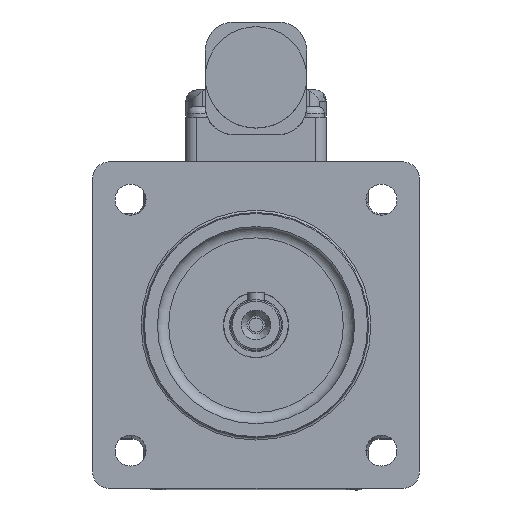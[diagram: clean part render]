
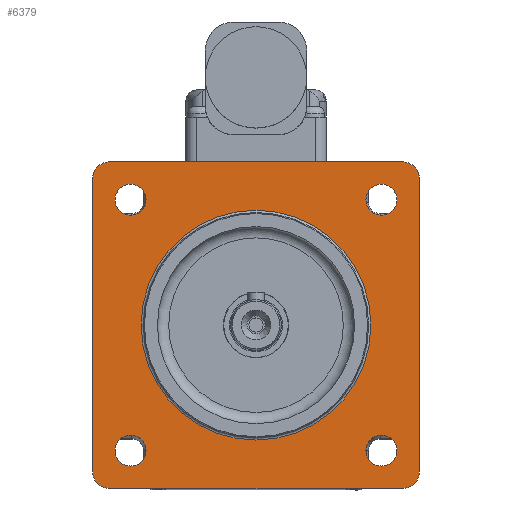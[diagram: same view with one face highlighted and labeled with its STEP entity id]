
A CAD part, top view. The second image highlights one B-rep face of the part: STEP entity #6379.
In plain terms, the highlighted planar face has unit normal (0, 0, 1).
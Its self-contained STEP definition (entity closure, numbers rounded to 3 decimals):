
#301=CIRCLE('',#6883,20.4);
#303=CIRCLE('',#6887,3.);
#304=CIRCLE('',#6888,3.);
#305=CIRCLE('',#6889,3.);
#306=CIRCLE('',#6890,3.);
#307=CIRCLE('',#6891,2.75);
#308=CIRCLE('',#6892,2.75);
#309=CIRCLE('',#6893,2.75);
#310=CIRCLE('',#6894,2.75);
#431=FACE_BOUND('',#1203,.T.);
#432=FACE_BOUND('',#1204,.T.);
#433=FACE_BOUND('',#1205,.T.);
#434=FACE_BOUND('',#1206,.T.);
#435=FACE_BOUND('',#1207,.T.);
#825=FACE_OUTER_BOUND('',#1202,.T.);
#1202=EDGE_LOOP('',(#5131,#5132,#5133,#5134,#5135,#5136,#5137,#5138));
#1203=EDGE_LOOP('',(#5139));
#1204=EDGE_LOOP('',(#5140));
#1205=EDGE_LOOP('',(#5141));
#1206=EDGE_LOOP('',(#5142));
#1207=EDGE_LOOP('',(#5143));
#1759=LINE('',#10754,#2315);
#1760=LINE('',#10758,#2316);
#1761=LINE('',#10762,#2317);
#1762=LINE('',#10765,#2318);
#2315=VECTOR('',#8236,10.);
#2316=VECTOR('',#8239,10.);
#2317=VECTOR('',#8242,10.);
#2318=VECTOR('',#8245,10.);
#2825=VERTEX_POINT('',#10742);
#2827=VERTEX_POINT('',#10750);
#2828=VERTEX_POINT('',#10751);
#2829=VERTEX_POINT('',#10753);
#2830=VERTEX_POINT('',#10755);
#2831=VERTEX_POINT('',#10757);
#2832=VERTEX_POINT('',#10759);
#2833=VERTEX_POINT('',#10761);
#2834=VERTEX_POINT('',#10763);
#2835=VERTEX_POINT('',#10766);
#2836=VERTEX_POINT('',#10768);
#2837=VERTEX_POINT('',#10770);
#2838=VERTEX_POINT('',#10772);
#3622=EDGE_CURVE('',#2825,#2825,#301,.T.);
#3625=EDGE_CURVE('',#2827,#2828,#303,.T.);
#3626=EDGE_CURVE('',#2829,#2827,#1759,.T.);
#3627=EDGE_CURVE('',#2830,#2829,#304,.T.);
#3628=EDGE_CURVE('',#2831,#2830,#1760,.T.);
#3629=EDGE_CURVE('',#2832,#2831,#305,.T.);
#3630=EDGE_CURVE('',#2833,#2832,#1761,.T.);
#3631=EDGE_CURVE('',#2834,#2833,#306,.T.);
#3632=EDGE_CURVE('',#2828,#2834,#1762,.T.);
#3633=EDGE_CURVE('',#2835,#2835,#307,.T.);
#3634=EDGE_CURVE('',#2836,#2836,#308,.T.);
#3635=EDGE_CURVE('',#2837,#2837,#309,.T.);
#3636=EDGE_CURVE('',#2838,#2838,#310,.T.);
#5131=ORIENTED_EDGE('',*,*,#3625,.F.);
#5132=ORIENTED_EDGE('',*,*,#3626,.F.);
#5133=ORIENTED_EDGE('',*,*,#3627,.F.);
#5134=ORIENTED_EDGE('',*,*,#3628,.F.);
#5135=ORIENTED_EDGE('',*,*,#3629,.F.);
#5136=ORIENTED_EDGE('',*,*,#3630,.F.);
#5137=ORIENTED_EDGE('',*,*,#3631,.F.);
#5138=ORIENTED_EDGE('',*,*,#3632,.F.);
#5139=ORIENTED_EDGE('',*,*,#3633,.T.);
#5140=ORIENTED_EDGE('',*,*,#3634,.T.);
#5141=ORIENTED_EDGE('',*,*,#3635,.T.);
#5142=ORIENTED_EDGE('',*,*,#3636,.T.);
#5143=ORIENTED_EDGE('',*,*,#3622,.F.);
#5779=PLANE('',#6886);
#6379=ADVANCED_FACE('',(#825,#431,#432,#433,#434,#435),#5779,.T.);
#6883=AXIS2_PLACEMENT_3D('',#10744,#8225,#8226);
#6886=AXIS2_PLACEMENT_3D('',#10749,#8232,#8233);
#6887=AXIS2_PLACEMENT_3D('',#10752,#8234,#8235);
#6888=AXIS2_PLACEMENT_3D('',#10756,#8237,#8238);
#6889=AXIS2_PLACEMENT_3D('',#10760,#8240,#8241);
#6890=AXIS2_PLACEMENT_3D('',#10764,#8243,#8244);
#6891=AXIS2_PLACEMENT_3D('',#10767,#8246,#8247);
#6892=AXIS2_PLACEMENT_3D('',#10769,#8248,#8249);
#6893=AXIS2_PLACEMENT_3D('',#10771,#8250,#8251);
#6894=AXIS2_PLACEMENT_3D('',#10773,#8252,#8253);
#8225=DIRECTION('center_axis',(0.,0.,
1.));
#8226=DIRECTION('ref_axis',(-1.,0.,0.));
#8232=DIRECTION('center_axis',(0.,0.,
1.));
#8233=DIRECTION('ref_axis',(1.,0.,0.));
#8234=DIRECTION('center_axis',(0.,0.,
-1.));
#8235=DIRECTION('ref_axis',(0.707,-0.707,0.));
#8236=DIRECTION('',(0.,-1.,0.));
#8237=DIRECTION('center_axis',(0.,0.,
-1.));
#8238=DIRECTION('ref_axis',(0.707,0.707,0.));
#8239=DIRECTION('',(1.,0.,0.));
#8240=DIRECTION('center_axis',(0.,0.,
-1.));
#8241=DIRECTION('ref_axis',(-0.707,0.707,0.));
#8242=DIRECTION('',(0.,1.,0.));
#8243=DIRECTION('center_axis',(0.,0.,
-1.));
#8244=DIRECTION('ref_axis',(-0.707,-0.707,0.));
#8245=DIRECTION('',(-1.,0.,0.));
#8246=DIRECTION('center_axis',(0.,0.,
-1.));
#8247=DIRECTION('ref_axis',(1.,0.,0.));
#8248=DIRECTION('center_axis',(0.,0.,
-1.));
#8249=DIRECTION('ref_axis',(1.,0.,0.));
#8250=DIRECTION('center_axis',(0.,0.,
-1.));
#8251=DIRECTION('ref_axis',(1.,0.,0.));
#8252=DIRECTION('center_axis',(0.,0.,
-1.));
#8253=DIRECTION('ref_axis',(1.,0.,0.));
#10742=CARTESIAN_POINT('',(20.4,0.,0.));
#10744=CARTESIAN_POINT('Origin',(0.,0.,
0.));
#10749=CARTESIAN_POINT('Origin',(0.,0.,
0.));
#10750=CARTESIAN_POINT('',(29.,-26.,0.));
#10751=CARTESIAN_POINT('',(26.,-29.,0.));
#10752=CARTESIAN_POINT('Origin',(26.,-26.,0.));
#10753=CARTESIAN_POINT('',(29.,26.,0.));
#10754=CARTESIAN_POINT('',(29.,-29.,0.));
#10755=CARTESIAN_POINT('',(26.,29.,0.));
#10756=CARTESIAN_POINT('Origin',(26.,26.,0.));
#10757=CARTESIAN_POINT('',(-26.,29.,0.));
#10758=CARTESIAN_POINT('',(29.,29.,0.));
#10759=CARTESIAN_POINT('',(-29.,26.,0.));
#10760=CARTESIAN_POINT('Origin',(-26.,26.,0.));
#10761=CARTESIAN_POINT('',(-29.,-26.,0.));
#10762=CARTESIAN_POINT('',(-29.,29.,0.));
#10763=CARTESIAN_POINT('',(-26.,-29.,0.));
#10764=CARTESIAN_POINT('Origin',(-26.,-26.,0.));
#10765=CARTESIAN_POINT('',(-29.,-29.,0.));
#10766=CARTESIAN_POINT('',(-25.024,22.274,0.));
#10767=CARTESIAN_POINT('Origin',(-22.274,22.274,0.));
#10768=CARTESIAN_POINT('',(19.524,22.274,0.));
#10769=CARTESIAN_POINT('Origin',(22.274,22.274,0.));
#10770=CARTESIAN_POINT('',(19.524,-22.274,0.));
#10771=CARTESIAN_POINT('Origin',(22.274,-22.274,0.));
#10772=CARTESIAN_POINT('',(-25.024,-22.274,0.));
#10773=CARTESIAN_POINT('Origin',(-22.274,-22.274,0.));
